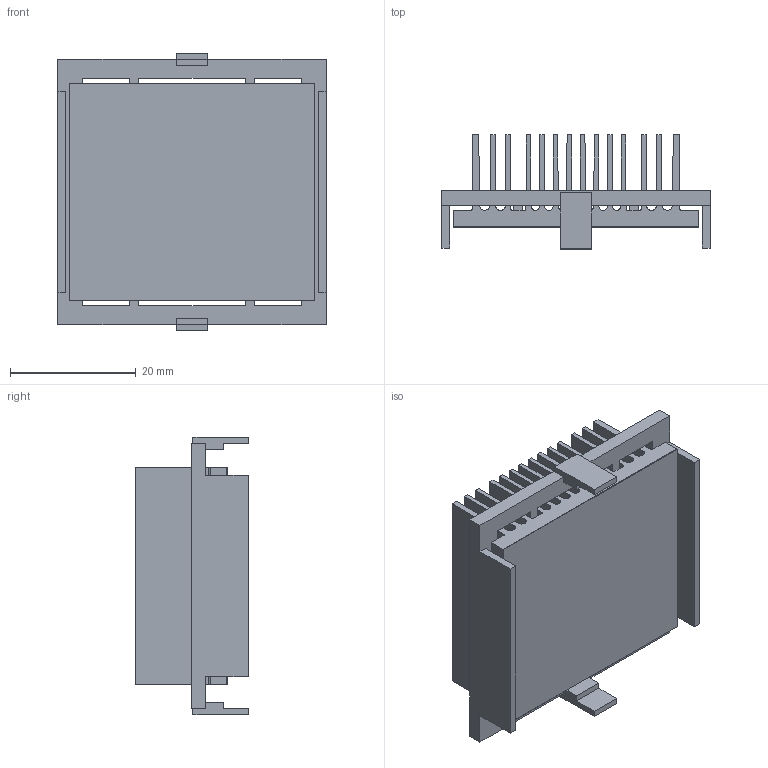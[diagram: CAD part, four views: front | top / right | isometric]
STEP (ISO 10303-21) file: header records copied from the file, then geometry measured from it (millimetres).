
FILE_DESCRIPTION (( 'STEP AP214' ), '1' );
FILE_NAME ('INH40001-15-2.6Y.STEP', '2023-02-20T19:44:38', ( '' ), ( '' ), 'SwSTEP 2.0', 'SolidWorks 2020', '' );
FILE_SCHEMA (( 'AUTOMOTIVE_DESIGN' ));
Length unit declared in the file: millimetre
Products named in the file (1): INH40001-15-2.6Y
Bounding box: 42.7 x 18.1 x 44.2 mm (x, y, z)
Volume: 10418.5 mm3; surface area: 20476.3 mm2
Topology: 3 solids, 3 shells, 154 faces, 444 edges, 296 vertices
Faces by surface type: plane 126, cylinder 28
Entity records: 6754 total; most frequent: CARTESIAN_POINT 895, ORIENTED_EDGE 888, DIRECTION 810, EDGE_CURVE 444, VECTOR 388, LINE 388, VERTEX_POINT 296, AXIS2_PLACEMENT_3D 211
